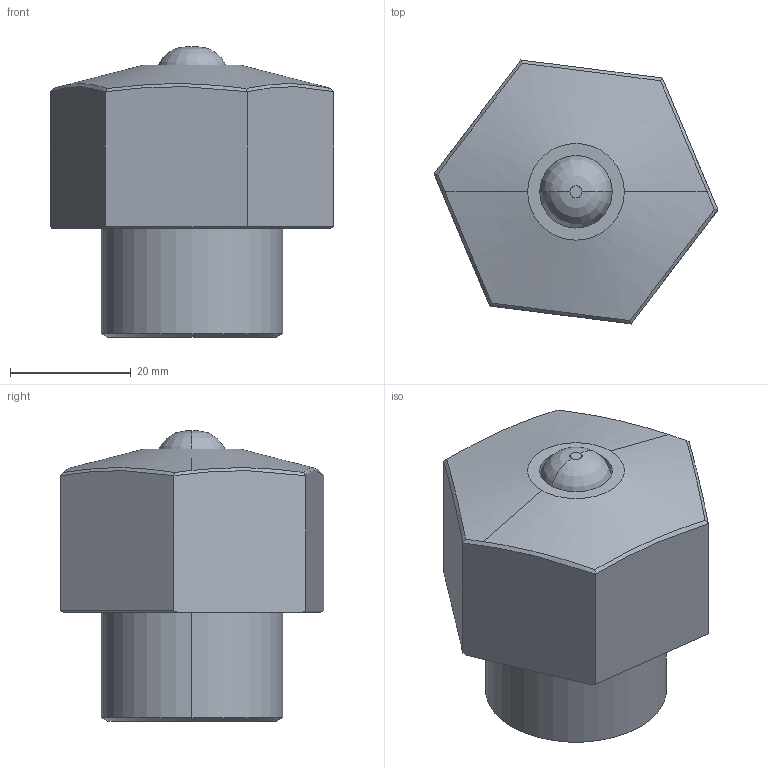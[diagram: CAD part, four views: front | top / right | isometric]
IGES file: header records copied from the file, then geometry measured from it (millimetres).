
Start section: SolidWorks IGES file using analytic representation for surfaces
Global section: file name: F:\TO4C-THREADED BODY-PUSHER\TO4C-M301.IGS; native system: SolidWorks 2019; preprocessor: SolidWorks 2019; author: ADMIN; date: 200802.105811; units: millimetre
Bounding box: 46.97 x 43.65 x 48 mm (x, y, z)
Volume: 48536.7 mm3; surface area: 10489.2 mm2
Topology: 2 solids, 2 shells, 43 faces, 89 edges, 54 vertices
Faces by surface type: plane 19, revolution 18, bspline 6
